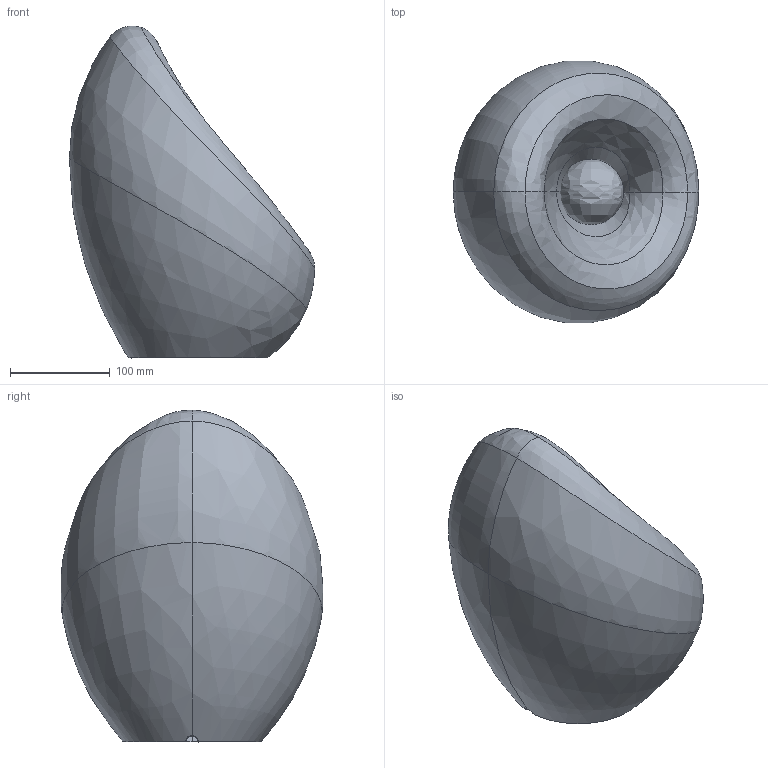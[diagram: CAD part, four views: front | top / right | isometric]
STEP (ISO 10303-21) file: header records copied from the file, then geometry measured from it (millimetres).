
FILE_DESCRIPTION(/* description */ (''),/* implementation_level */ '2;1');
FILE_NAME(/* name */ '00457MT0AT0 - LIGHTBODY T',/* time_stamp */ '2023-05-04T11:17:31+02:00',/* author */ (''),/* organization */ (''),/* preprocessor_version */ 'ST-DEVELOPER v16.5',/* originating_system */ 'Rhino 7.27',/* authorisation */ '');
FILE_SCHEMA (('CONFIG_CONTROL_DESIGN'));
Length unit declared in the file: millimetre
Products named in the file (1): Document
Bounding box: 246 x 262.59 x 333 mm (x, y, z)
Volume: 991329.4 mm3; surface area: 558774.7 mm2
Topology: 11 solids, 11 shells, 258 faces, 787 edges, 553 vertices
Faces by surface type: plane 91, cylinder 87, bspline 80
Entity records: 24552 total; most frequent: CARTESIAN_POINT 19334, ORIENTED_EDGE 1566, EDGE_CURVE 783, VERTEX_POINT 553, B_SPLINE_CURVE_WITH_KNOTS 475, EDGE_LOOP 286, ADVANCED_FACE 258, FACE_OUTER_BOUND 258
